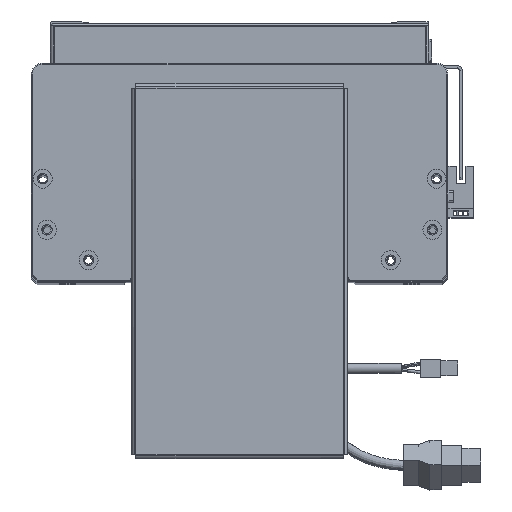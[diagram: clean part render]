
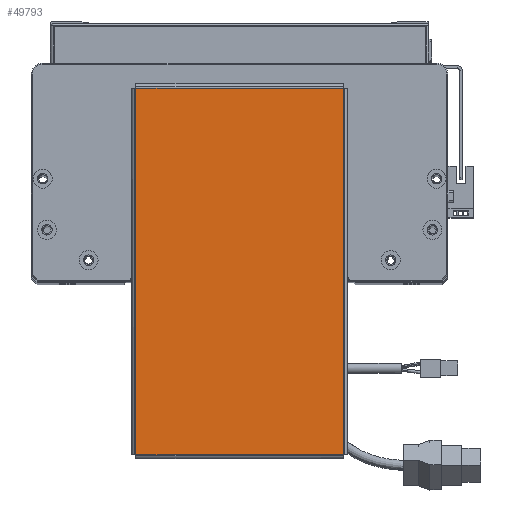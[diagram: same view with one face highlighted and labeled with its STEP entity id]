
A CAD part, top view. The second image highlights one B-rep face of the part: STEP entity #49793.
In plain terms, the highlighted planar face has unit normal (0, 0, 1).
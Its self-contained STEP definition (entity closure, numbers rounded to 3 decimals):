
#1695 = CARTESIAN_POINT ( 'NONE',  ( -96.763, 54.793, 0. ) ) ;
#1971 = VERTEX_POINT ( 'NONE', #38061 ) ;
#2553 = VECTOR ( 'NONE', #14531, 1000. ) ;
#4625 = ORIENTED_EDGE ( 'NONE', *, *, #18467, .T. ) ;
#5647 = CARTESIAN_POINT ( 'NONE',  ( -96.763, 54.763, 0. ) ) ;
#8855 = EDGE_CURVE ( 'NONE', #1971, #23504, #24861, .T. ) ;
#9500 = LINE ( 'NONE', #44337, #2553 ) ;
#10139 = AXIS2_PLACEMENT_3D ( 'NONE', #55267, #25489, #39987 ) ;
#11030 = ORIENTED_EDGE ( 'NONE', *, *, #62190, .T. ) ;
#14435 = LINE ( 'NONE', #18229, #41639 ) ;
#14531 = DIRECTION ( 'NONE',  ( 0., 1., 0. ) ) ;
#16667 = DIRECTION ( 'NONE',  ( 0., -1., 0. ) ) ;
#18229 = CARTESIAN_POINT ( 'NONE',  ( -96.793, -54.763, 0. ) ) ;
#18467 = EDGE_CURVE ( 'NONE', #23504, #30681, #51605, .T. ) ;
#23504 = VERTEX_POINT ( 'NONE', #5647 ) ;
#24132 = VERTEX_POINT ( 'NONE', #39592 ) ;
#24861 = LINE ( 'NONE', #55167, #44278 ) ;
#25489 = DIRECTION ( 'NONE',  ( 0., 0., 1. ) ) ;
#26505 = ORIENTED_EDGE ( 'NONE', *, *, #35203, .T. ) ;
#28260 = VECTOR ( 'NONE', #16667, 1000. ) ;
#30681 = VERTEX_POINT ( 'NONE', #45702 ) ;
#35001 = PLANE ( 'NONE',  #10139 ) ;
#35203 = EDGE_CURVE ( 'NONE', #24132, #1971, #9500, .T. ) ;
#38061 = CARTESIAN_POINT ( 'NONE',  ( 96.763, 54.763, 0. ) ) ;
#39592 = CARTESIAN_POINT ( 'NONE',  ( 96.763, -54.763, 0. ) ) ;
#39987 = DIRECTION ( 'NONE',  ( 1., 0., 0. ) ) ;
#41639 = VECTOR ( 'NONE', #63008, 1000. ) ;
#44278 = VECTOR ( 'NONE', #55385, 1000. ) ;
#44337 = CARTESIAN_POINT ( 'NONE',  ( 96.763, -54.793, 0. ) ) ;
#44385 = EDGE_LOOP ( 'NONE', ( #11030, #26505, #62503, #4625 ) ) ;
#44745 = FACE_OUTER_BOUND ( 'NONE', #44385, .T. ) ;
#45702 = CARTESIAN_POINT ( 'NONE',  ( -96.763, -54.763, 0. ) ) ;
#49793 = ADVANCED_FACE ( 'NONE', ( #44745 ), #35001, .T. ) ;
#51605 = LINE ( 'NONE', #1695, #28260 ) ;
#55167 = CARTESIAN_POINT ( 'NONE',  ( 96.793, 54.763, 0. ) ) ;
#55267 = CARTESIAN_POINT ( 'NONE',  ( 0., 0., 0. ) ) ;
#55385 = DIRECTION ( 'NONE',  ( -1., 0., 0. ) ) ;
#62190 = EDGE_CURVE ( 'NONE', #30681, #24132, #14435, .T. ) ;
#62503 = ORIENTED_EDGE ( 'NONE', *, *, #8855, .T. ) ;
#63008 = DIRECTION ( 'NONE',  ( 1., 0., 0. ) ) ;
